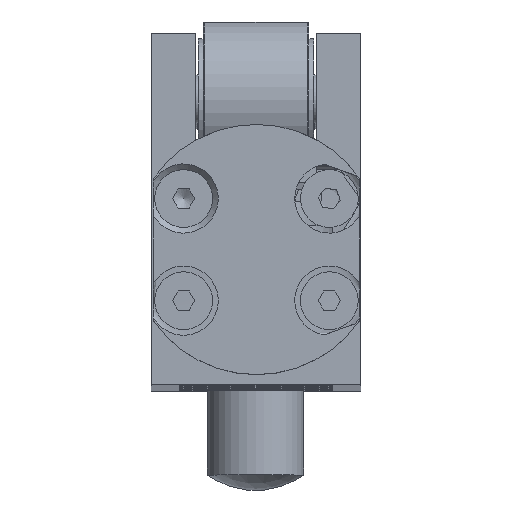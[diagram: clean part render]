
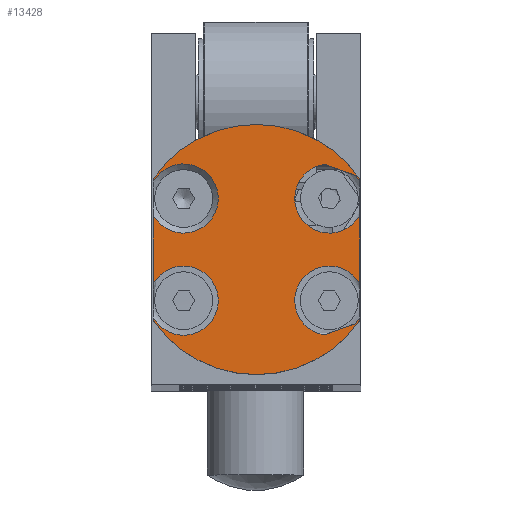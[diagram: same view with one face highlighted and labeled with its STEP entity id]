
A CAD part, top view. The second image highlights one B-rep face of the part: STEP entity #13428.
In plain terms, the highlighted planar face has unit normal (0, 0, 1).
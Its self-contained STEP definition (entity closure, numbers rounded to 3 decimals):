
#531=PLANE('',#14847);
#1341=FACE_OUTER_BOUND('',#2154,.T.);
#2154=EDGE_LOOP('',(#10402,#10403,#10404,#10405,#10406,#10407,#10408,#10409,
#10410,#10411,#10412,#10413,#10414,#10415,#10416,#10417));
#2879=LINE('',#23589,#3422);
#2880=LINE('',#23592,#3423);
#2881=LINE('',#23596,#3424);
#2882=LINE('',#23600,#3425);
#2883=LINE('',#23604,#3426);
#2884=LINE('',#23608,#3427);
#2885=LINE('',#23612,#3428);
#2886=LINE('',#23615,#3429);
#3422=VECTOR('',#18190,10.);
#3423=VECTOR('',#18193,10.);
#3424=VECTOR('',#18196,10.);
#3425=VECTOR('',#18199,10.);
#3426=VECTOR('',#18202,10.);
#3427=VECTOR('',#18205,10.);
#3428=VECTOR('',#18208,10.);
#3429=VECTOR('',#18211,10.);
#4307=CIRCLE('',#14841,3.6);
#4310=CIRCLE('',#14844,3.6);
#4311=CIRCLE('',#14848,3.6);
#4312=CIRCLE('',#14849,3.6);
#4313=CIRCLE('',#14850,13.);
#4314=CIRCLE('',#14851,3.6);
#4315=CIRCLE('',#14852,3.6);
#4316=CIRCLE('',#14853,13.);
#5710=VERTEX_POINT('',#23565);
#5711=VERTEX_POINT('',#23566);
#5712=VERTEX_POINT('',#23570);
#5716=VERTEX_POINT('',#23581);
#5717=VERTEX_POINT('',#23591);
#5718=VERTEX_POINT('',#23593);
#5719=VERTEX_POINT('',#23595);
#5720=VERTEX_POINT('',#23597);
#5721=VERTEX_POINT('',#23599);
#5722=VERTEX_POINT('',#23601);
#5723=VERTEX_POINT('',#23603);
#5724=VERTEX_POINT('',#23605);
#5725=VERTEX_POINT('',#23607);
#5726=VERTEX_POINT('',#23609);
#5727=VERTEX_POINT('',#23611);
#5728=VERTEX_POINT('',#23613);
#7423=EDGE_CURVE('',#5712,#5710,#4307,.T.);
#7429=EDGE_CURVE('',#5711,#5716,#4310,.T.);
#7431=EDGE_CURVE('',#5716,#5712,#2879,.T.);
#7432=EDGE_CURVE('',#5710,#5717,#2880,.T.);
#7433=EDGE_CURVE('',#5717,#5718,#4311,.T.);
#7434=EDGE_CURVE('',#5718,#5719,#2881,.T.);
#7435=EDGE_CURVE('',#5719,#5720,#4312,.T.);
#7436=EDGE_CURVE('',#5720,#5721,#2882,.T.);
#7437=EDGE_CURVE('',#5722,#5721,#4313,.T.);
#7438=EDGE_CURVE('',#5722,#5723,#2883,.T.);
#7439=EDGE_CURVE('',#5723,#5724,#4314,.T.);
#7440=EDGE_CURVE('',#5724,#5725,#2884,.T.);
#7441=EDGE_CURVE('',#5725,#5726,#4315,.T.);
#7442=EDGE_CURVE('',#5726,#5727,#2885,.T.);
#7443=EDGE_CURVE('',#5728,#5727,#4316,.T.);
#7444=EDGE_CURVE('',#5728,#5711,#2886,.T.);
#10402=ORIENTED_EDGE('',*,*,#7429,.T.);
#10403=ORIENTED_EDGE('',*,*,#7431,.T.);
#10404=ORIENTED_EDGE('',*,*,#7423,.T.);
#10405=ORIENTED_EDGE('',*,*,#7432,.T.);
#10406=ORIENTED_EDGE('',*,*,#7433,.T.);
#10407=ORIENTED_EDGE('',*,*,#7434,.T.);
#10408=ORIENTED_EDGE('',*,*,#7435,.T.);
#10409=ORIENTED_EDGE('',*,*,#7436,.T.);
#10410=ORIENTED_EDGE('',*,*,#7437,.F.);
#10411=ORIENTED_EDGE('',*,*,#7438,.T.);
#10412=ORIENTED_EDGE('',*,*,#7439,.T.);
#10413=ORIENTED_EDGE('',*,*,#7440,.T.);
#10414=ORIENTED_EDGE('',*,*,#7441,.T.);
#10415=ORIENTED_EDGE('',*,*,#7442,.T.);
#10416=ORIENTED_EDGE('',*,*,#7443,.F.);
#10417=ORIENTED_EDGE('',*,*,#7444,.T.);
#13428=ADVANCED_FACE('',(#1341),#531,.T.);
#14841=AXIS2_PLACEMENT_3D('',#23571,#18176,#18177);
#14844=AXIS2_PLACEMENT_3D('',#23585,#18183,#18184);
#14847=AXIS2_PLACEMENT_3D('',#23590,#18191,#18192);
#14848=AXIS2_PLACEMENT_3D('',#23594,#18194,#18195);
#14849=AXIS2_PLACEMENT_3D('',#23598,#18197,#18198);
#14850=AXIS2_PLACEMENT_3D('',#23602,#18200,#18201);
#14851=AXIS2_PLACEMENT_3D('',#23606,#18203,#18204);
#14852=AXIS2_PLACEMENT_3D('',#23610,#18206,#18207);
#14853=AXIS2_PLACEMENT_3D('',#23614,#18209,#18210);
#18176=DIRECTION('center_axis',(0.,0.,
-1.));
#18177=DIRECTION('ref_axis',(-0.342,0.94,0.));
#18183=DIRECTION('center_axis',(0.,0.,
-1.));
#18184=DIRECTION('ref_axis',(-0.342,0.94,0.));
#18190=DIRECTION('',(-0.94,-0.342,0.));
#18191=DIRECTION('center_axis',(0.,0.,
1.));
#18192=DIRECTION('ref_axis',(1.,0.,0.));
#18193=DIRECTION('',(0.,1.,0.));
#18194=DIRECTION('center_axis',(0.,0.,
-1.));
#18195=DIRECTION('ref_axis',(-0.342,-0.94,0.));
#18196=DIRECTION('',(0.94,-0.342,0.));
#18197=DIRECTION('center_axis',(0.,0.,
-1.));
#18198=DIRECTION('ref_axis',(-0.342,-0.94,0.));
#18199=DIRECTION('',(0.,1.,0.));
#18200=DIRECTION('center_axis',(0.,0.,
-1.));
#18201=DIRECTION('ref_axis',(0.,1.,0.));
#18202=DIRECTION('',(0.,-1.,0.));
#18203=DIRECTION('center_axis',(0.,0.,
-1.));
#18204=DIRECTION('ref_axis',(1.,0.,0.));
#18205=DIRECTION('',(0.,-1.,0.));
#18206=DIRECTION('center_axis',(0.,0.,
-1.));
#18207=DIRECTION('ref_axis',(1.,0.,0.));
#18208=DIRECTION('',(0.,-1.,0.));
#18209=DIRECTION('center_axis',(0.,0.,
-1.));
#18210=DIRECTION('ref_axis',(0.,1.,0.));
#18211=DIRECTION('',(0.,1.,0.));
#23565=CARTESIAN_POINT('',(10.8,-7.855,206.));
#23566=CARTESIAN_POINT('',(10.8,-11.256,206.));
#23570=CARTESIAN_POINT('',(7.114,-13.119,206.));
#23571=CARTESIAN_POINT('Origin',(7.627,-9.556,206.));
#23581=CARTESIAN_POINT('',(10.311,-11.955,206.));
#23585=CARTESIAN_POINT('Origin',(7.627,-9.556,206.));
#23589=CARTESIAN_POINT('',(8.206,-12.721,206.));
#23590=CARTESIAN_POINT('Origin',(0.05,2.25,206.));
#23591=CARTESIAN_POINT('',(10.8,-0.645,206.));
#23592=CARTESIAN_POINT('',(10.8,-4.655,206.));
#23593=CARTESIAN_POINT('',(7.114,4.619,206.));
#23594=CARTESIAN_POINT('Origin',(7.627,1.056,206.));
#23595=CARTESIAN_POINT('',(10.311,3.455,206.));
#23596=CARTESIAN_POINT('',(6.117,4.982,206.));
#23597=CARTESIAN_POINT('',(10.8,2.756,206.));
#23598=CARTESIAN_POINT('Origin',(7.627,1.056,206.));
#23599=CARTESIAN_POINT('',(10.8,3.06,206.));
#23600=CARTESIAN_POINT('',(10.8,-4.655,206.));
#23601=CARTESIAN_POINT('',(-10.7,3.06,206.));
#23602=CARTESIAN_POINT('Origin',(0.05,-4.25,206.));
#23603=CARTESIAN_POINT('',(-10.7,2.756,206.));
#23604=CARTESIAN_POINT('',(-10.7,2.655,206.));
#23605=CARTESIAN_POINT('',(-10.7,-0.645,206.));
#23606=CARTESIAN_POINT('Origin',(-7.527,1.056,206.));
#23607=CARTESIAN_POINT('',(-10.7,-7.855,206.));
#23608=CARTESIAN_POINT('',(-10.7,2.655,206.));
#23609=CARTESIAN_POINT('',(-10.7,-11.256,206.));
#23610=CARTESIAN_POINT('Origin',(-7.527,-9.556,206.));
#23611=CARTESIAN_POINT('',(-10.7,-11.56,206.));
#23612=CARTESIAN_POINT('',(-10.7,2.655,206.));
#23613=CARTESIAN_POINT('',(10.8,-11.56,206.));
#23614=CARTESIAN_POINT('Origin',(0.05,-4.25,206.));
#23615=CARTESIAN_POINT('',(10.8,-4.655,206.));
